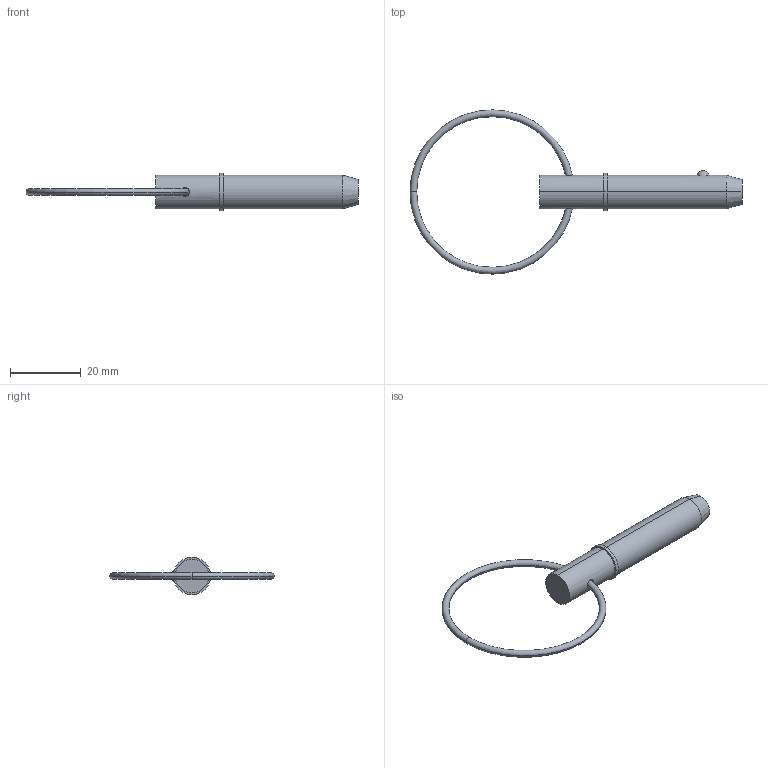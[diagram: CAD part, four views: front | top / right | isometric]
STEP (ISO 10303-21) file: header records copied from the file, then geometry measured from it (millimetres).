
FILE_DESCRIPTION (( 'STEP AP203' ), '1' );
FILE_NAME ('33014.W3710.step', '2024-11-04T08:26:07', ( '' ), ( '' ), 'SwSTEP 2.0', 'SolidWorks 2019', '' );
FILE_SCHEMA (( 'CONFIG_CONTROL_DESIGN' ));
Length unit declared in the file: millimetre
Products named in the file (3): Part2_33014.W3710; 33014.W3710; Part1_33014.W3710
Assembly tree (2 placements, depth 2):
  33014.W3710
    Part1_33014.W3710
    Part2_33014.W3710
Bounding box: 93.73 x 46.36 x 10.48 mm (x, y, z)
Volume: 4381.8 mm3; surface area: 2747 mm2
Topology: 2 solids, 2 shells, 22 faces, 43 edges, 26 vertices
Faces by surface type: torus 8, cylinder 6, plane 4, sphere 2, cone 2
Entity records: 1005 total; most frequent: CARTESIAN_POINT 228, DIRECTION 120, ORIENTED_EDGE 86, AXIS2_PLACEMENT_3D 56, EDGE_CURVE 43, CIRCLE 29, EDGE_LOOP 27, PERSON_AND_ORGANIZATION 26
